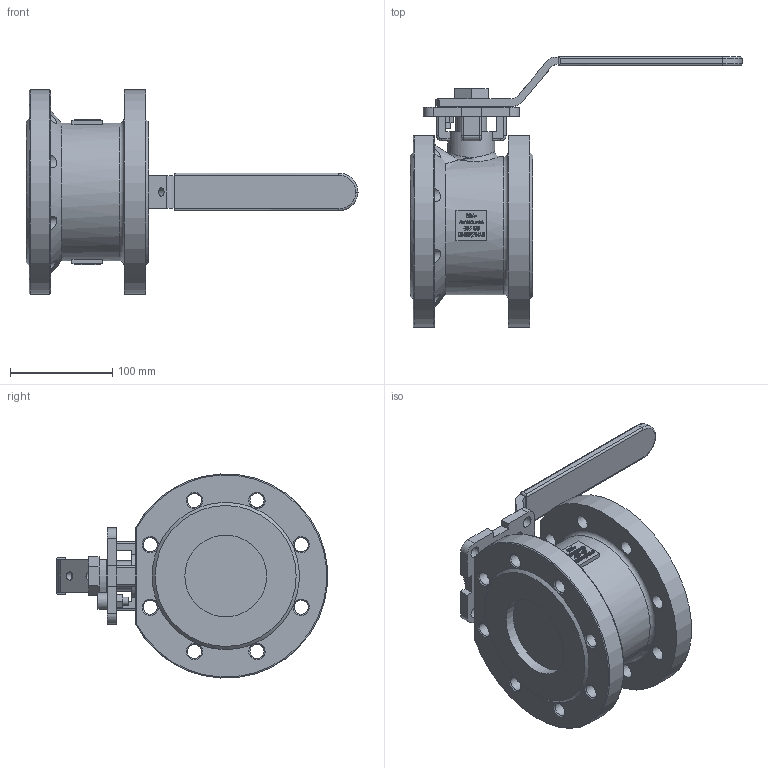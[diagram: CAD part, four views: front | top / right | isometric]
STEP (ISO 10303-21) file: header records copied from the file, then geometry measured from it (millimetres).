
FILE_DESCRIPTION((''),'2;1');
FILE_NAME('K:\Inventor\1 Artikel\12) Flanschen-Kugelhähne\12a) manuell\Econosto\437-GS, 7343\437-GS, DN80\437-GS, DN80, 3D\437-GS, DN80, PN16, HH, 3D.stp','2019-11-11T10:35:09',('claudia'),(''),'Autodesk Inventor 2013','Autodesk Inventor 2013','');
FILE_SCHEMA(('AUTOMOTIVE_DESIGN { 1 0 10303 214 1 1 1 1 }'));
Length unit declared in the file: millimetre
Products named in the file (1): Bauteil8
Bounding box: 325 x 265.24 x 199.75 mm (x, y, z)
Volume: 2524937.7 mm3; surface area: 222841.9 mm2
Topology: 1 solids, 2 shells, 1357 faces, 3730 edges, 2462 vertices
Faces by surface type: plane 723, bspline 518, cylinder 78, cone 19, torus 15, sphere 4
Full cylindrical faces by diameter (mm): 8 x3, 9 x4, 11 x4, 13.835 x16, 16 x1, 22 x1, 30 x1, 46 x1, 54 x1, 80 x2, 135 x1
Entity records: 48200 total; most frequent: CARTESIAN_POINT 16092, ORIENTED_EDGE 7268, DIRECTION 4493, EDGE_CURVE 3634, VERTEX_POINT 2422, VECTOR 2349, LINE 2349, EDGE_LOOP 1556
